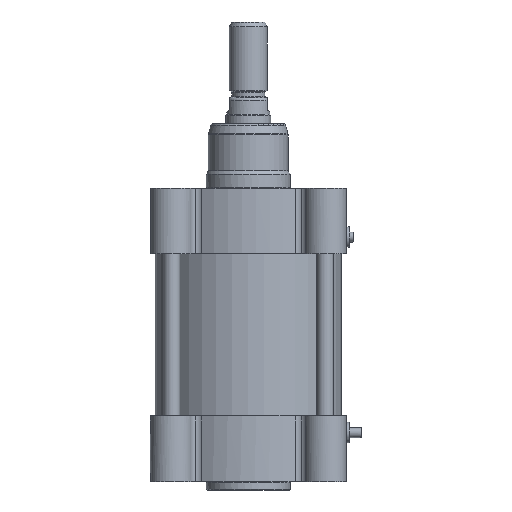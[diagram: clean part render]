
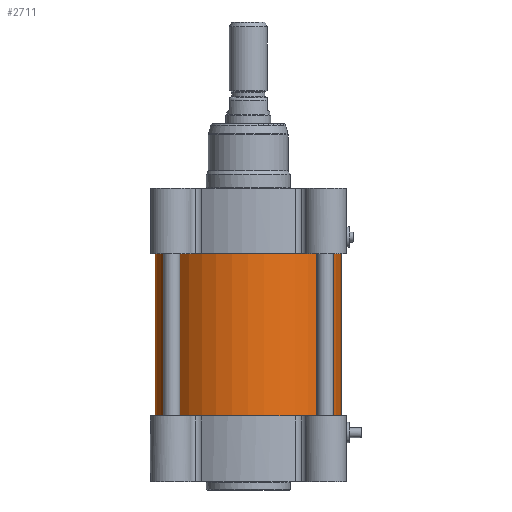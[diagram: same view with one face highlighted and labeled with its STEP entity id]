
A CAD part, front view. The second image highlights one B-rep face of the part: STEP entity #2711.
In plain terms, the highlighted cylindrical face has radius 66.5 mm (diameter 133 mm), a partial arc.
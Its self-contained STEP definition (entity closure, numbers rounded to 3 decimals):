
#1602 = CARTESIAN_POINT ( 'NONE',  ( 0., 0., 116. ) ) ;
#1842 = DIRECTION ( 'NONE',  ( 0., 0., 1. ) ) ;
#2711 = ADVANCED_FACE ( 'NONE', ( #30636 ), #28268, .T. ) ;
#2974 = ORIENTED_EDGE ( 'NONE', *, *, #26631, .F. ) ;
#4295 = CARTESIAN_POINT ( 'NONE',  ( 66.5, 0., 0. ) ) ;
#4358 = EDGE_CURVE ( 'NONE', #8866, #30000, #13272, .T. ) ;
#5287 = CARTESIAN_POINT ( 'NONE',  ( -66.5, 0., 0. ) ) ;
#5660 = CARTESIAN_POINT ( 'NONE',  ( 66.5, 0., 0. ) ) ;
#6669 = AXIS2_PLACEMENT_3D ( 'NONE', #34069, #8663, #22986 ) ;
#7052 = DIRECTION ( 'NONE',  ( -1., 0., 0. ) ) ;
#7068 = ORIENTED_EDGE ( 'NONE', *, *, #4358, .F. ) ;
#8663 = DIRECTION ( 'NONE',  ( 0., 0., 1. ) ) ;
#8748 = DIRECTION ( 'NONE',  ( 0., 0., 1. ) ) ;
#8866 = VERTEX_POINT ( 'NONE', #28267 ) ;
#9630 = ORIENTED_EDGE ( 'NONE', *, *, #26321, .T. ) ;
#11877 = VERTEX_POINT ( 'NONE', #22010 ) ;
#13272 = LINE ( 'NONE', #5287, #27189 ) ;
#15564 = DIRECTION ( 'NONE',  ( 0., 0., -1. ) ) ;
#20970 = AXIS2_PLACEMENT_3D ( 'NONE', #1602, #15564, #7052 ) ;
#21551 = CIRCLE ( 'NONE', #20970, 66.5 ) ;
#21581 = AXIS2_PLACEMENT_3D ( 'NONE', #27818, #28008, #25273 ) ;
#21928 = EDGE_LOOP ( 'NONE', ( #2974, #33664, #9630, #7068 ) ) ;
#22010 = CARTESIAN_POINT ( 'NONE',  ( 66.5, 0., 116. ) ) ;
#22986 = DIRECTION ( 'NONE',  ( -1., 0., 0. ) ) ;
#25273 = DIRECTION ( 'NONE',  ( -1., 0., 0. ) ) ;
#26321 = EDGE_CURVE ( 'NONE', #11877, #30000, #21551, .T. ) ;
#26631 = EDGE_CURVE ( 'NONE', #27487, #8866, #27953, .T. ) ;
#27189 = VECTOR ( 'NONE', #1842, 1000. ) ;
#27487 = VERTEX_POINT ( 'NONE', #4295 ) ;
#27818 = CARTESIAN_POINT ( 'NONE',  ( 0., 0., 0. ) ) ;
#27953 = CIRCLE ( 'NONE', #21581, 66.5 ) ;
#28008 = DIRECTION ( 'NONE',  ( 0., 0., -1. ) ) ;
#28267 = CARTESIAN_POINT ( 'NONE',  ( -66.5, 0., 0. ) ) ;
#28268 = CYLINDRICAL_SURFACE ( 'NONE', #6669, 66.5 ) ;
#30000 = VERTEX_POINT ( 'NONE', #35217 ) ;
#30636 = FACE_OUTER_BOUND ( 'NONE', #21928, .T. ) ;
#33345 = VECTOR ( 'NONE', #8748, 1000. ) ;
#33622 = LINE ( 'NONE', #5660, #33345 ) ;
#33664 = ORIENTED_EDGE ( 'NONE', *, *, #35348, .T. ) ;
#34069 = CARTESIAN_POINT ( 'NONE',  ( 0., 0., 0. ) ) ;
#35217 = CARTESIAN_POINT ( 'NONE',  ( -66.5, 0., 116. ) ) ;
#35348 = EDGE_CURVE ( 'NONE', #27487, #11877, #33622, .T. ) ;
